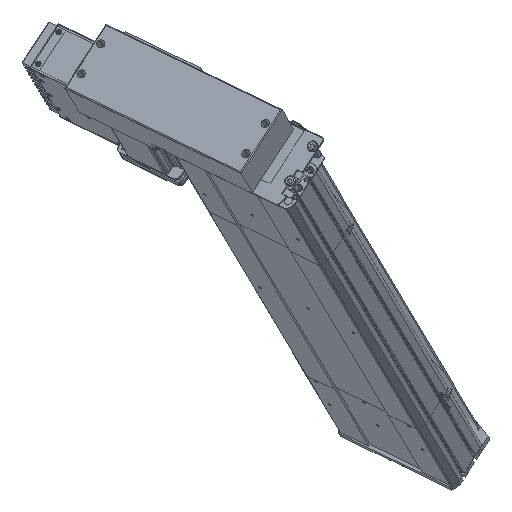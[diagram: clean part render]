
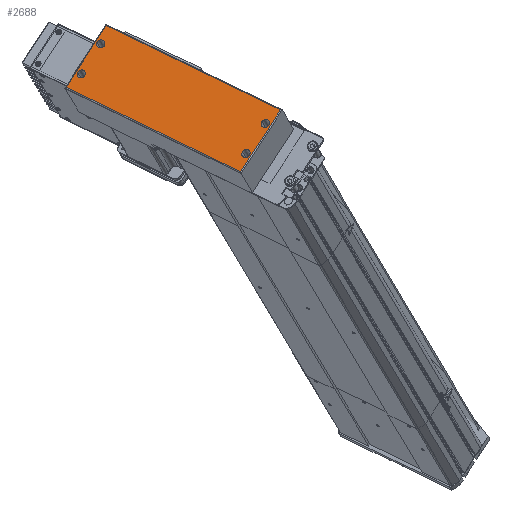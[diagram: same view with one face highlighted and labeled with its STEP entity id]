
A CAD part, top view. The second image highlights one B-rep face of the part: STEP entity #2688.
In plain terms, the highlighted planar face has unit normal (-0.256, 0.429, 0.866) as drawn and (0, 0, 1) by its records, which use the part's own axes.
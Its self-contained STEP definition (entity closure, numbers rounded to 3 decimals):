
#2187 = VERTEX_POINT ( 'NONE', #22397 ) ;
#2224 = VERTEX_POINT ( 'NONE', #22381 ) ;
#2235 = VERTEX_POINT ( 'NONE', #22449 ) ;
#2240 = EDGE_CURVE ( 'NONE', #2224, #2235, #22436, .T. ) ;
#2291 = VERTEX_POINT ( 'NONE', #22588 ) ;
#2293 = EDGE_CURVE ( 'NONE', #2187, #2291, #22581, .T. ) ;
#2318 = VERTEX_POINT ( 'NONE', #22617 ) ;
#2345 = VERTEX_POINT ( 'NONE', #22638 ) ;
#2347 = VERTEX_POINT ( 'NONE', #22670 ) ;
#2349 = EDGE_CURVE ( 'NONE', #2345, #2347, #22666, .T. ) ;
#2380 = VERTEX_POINT ( 'NONE', #22747 ) ;
#2382 = EDGE_CURVE ( 'NONE', #2318, #2380, #22741, .T. ) ;
#2614 = ORIENTED_EDGE ( 'NONE', *, *, #2737, .F. ) ;
#2619 = EDGE_LOOP ( 'NONE', ( #2622, #2690 ) ) ;
#2622 = ORIENTED_EDGE ( 'NONE', *, *, #2694, .F. ) ;
#2635 = ORIENTED_EDGE ( 'NONE', *, *, #2382, .F. ) ;
#2654 = ORIENTED_EDGE ( 'NONE', *, *, #2661, .T. ) ;
#2657 = VERTEX_POINT ( 'NONE', #23248 ) ;
#2659 = EDGE_CURVE ( 'NONE', #2380, #2318, #23225, .T. ) ;
#2661 = EDGE_CURVE ( 'NONE', #2657, #2672, #23281, .T. ) ;
#2663 = ORIENTED_EDGE ( 'NONE', *, *, #2722, .T. ) ;
#2667 = VERTEX_POINT ( 'NONE', #23264 ) ;
#2668 = EDGE_LOOP ( 'NONE', ( #2654, #2716, #2721, #2663 ) ) ;
#2672 = VERTEX_POINT ( 'NONE', #23222 ) ;
#2673 = EDGE_LOOP ( 'NONE', ( #2735, #2635 ) ) ;
#2679 = EDGE_LOOP ( 'NONE', ( #2732, #2736 ) ) ;
#2686 = VERTEX_POINT ( 'NONE', #23304 ) ;
#2688 = ADVANCED_FACE ( 'NONE', ( #23292, #23315, #23289, #23303, #23294 ), #23309, .T. ) ;
#2690 = ORIENTED_EDGE ( 'NONE', *, *, #2240, .F. ) ;
#2692 = EDGE_LOOP ( 'NONE', ( #2614, #2739 ) ) ;
#2694 = EDGE_CURVE ( 'NONE', #2235, #2224, #23334, .T. ) ;
#2709 = EDGE_CURVE ( 'NONE', #2672, #2686, #23333, .T. ) ;
#2716 = ORIENTED_EDGE ( 'NONE', *, *, #2709, .T. ) ;
#2717 = EDGE_CURVE ( 'NONE', #2686, #2667, #23385, .T. ) ;
#2721 = ORIENTED_EDGE ( 'NONE', *, *, #2717, .T. ) ;
#2722 = EDGE_CURVE ( 'NONE', #2667, #2657, #23373, .T. ) ;
#2729 = EDGE_CURVE ( 'NONE', #2291, #2187, #23367, .T. ) ;
#2732 = ORIENTED_EDGE ( 'NONE', *, *, #2729, .F. ) ;
#2735 = ORIENTED_EDGE ( 'NONE', *, *, #2659, .F. ) ;
#2736 = ORIENTED_EDGE ( 'NONE', *, *, #2293, .F. ) ;
#2737 = EDGE_CURVE ( 'NONE', #2347, #2345, #23413, .T. ) ;
#2739 = ORIENTED_EDGE ( 'NONE', *, *, #2349, .F. ) ;
#22381 = CARTESIAN_POINT ( 'NONE',  ( -161.75, 53., 44. ) ) ;
#22397 = CARTESIAN_POINT ( 'NONE',  ( -161.75, 19., 44. ) ) ;
#22436 = CIRCLE ( 'NONE', #22489, 4. ) ;
#22449 = CARTESIAN_POINT ( 'NONE',  ( -153.75, 53., 44. ) ) ;
#22484 = DIRECTION ( 'NONE',  ( 1., 0., 0. ) ) ;
#22485 = DIRECTION ( 'NONE',  ( 0., 0., 1. ) ) ;
#22486 = CARTESIAN_POINT ( 'NONE',  ( -157.75, 53., 44. ) ) ;
#22489 = AXIS2_PLACEMENT_3D ( 'NONE', #22486, #22485, #22484 ) ;
#22575 = DIRECTION ( 'NONE',  ( 1., 0., 0. ) ) ;
#22576 = DIRECTION ( 'NONE',  ( 0., 0., 1. ) ) ;
#22577 = CARTESIAN_POINT ( 'NONE',  ( -157.75, 19., 44. ) ) ;
#22578 = AXIS2_PLACEMENT_3D ( 'NONE', #22577, #22576, #22575 ) ;
#22581 = CIRCLE ( 'NONE', #22578, 4. ) ;
#22588 = CARTESIAN_POINT ( 'NONE',  ( -153.75, 19., 44. ) ) ;
#22617 = CARTESIAN_POINT ( 'NONE',  ( 25.25, 53., 44. ) ) ;
#22638 = CARTESIAN_POINT ( 'NONE',  ( 25.25, 19., 44. ) ) ;
#22662 = DIRECTION ( 'NONE',  ( 1., 0., 0. ) ) ;
#22663 = DIRECTION ( 'NONE',  ( 0., 0., 1. ) ) ;
#22664 = CARTESIAN_POINT ( 'NONE',  ( 29.25, 19., 44. ) ) ;
#22665 = AXIS2_PLACEMENT_3D ( 'NONE', #22664, #22663, #22662 ) ;
#22666 = CIRCLE ( 'NONE', #22665, 4. ) ;
#22670 = CARTESIAN_POINT ( 'NONE',  ( 33.25, 19., 44. ) ) ;
#22737 = DIRECTION ( 'NONE',  ( 1., 0., 0. ) ) ;
#22738 = DIRECTION ( 'NONE',  ( 0., 0., 1. ) ) ;
#22739 = CARTESIAN_POINT ( 'NONE',  ( 29.25, 53., 44. ) ) ;
#22740 = AXIS2_PLACEMENT_3D ( 'NONE', #22739, #22738, #22737 ) ;
#22741 = CIRCLE ( 'NONE', #22740, 4. ) ;
#22747 = CARTESIAN_POINT ( 'NONE',  ( 33.25, 53., 44. ) ) ;
#23220 = CARTESIAN_POINT ( 'NONE',  ( 29.25, 53., 44. ) ) ;
#23222 = CARTESIAN_POINT ( 'NONE',  ( 34.75, 1., 44. ) ) ;
#23225 = CIRCLE ( 'NONE', #23235, 4. ) ;
#23235 = AXIS2_PLACEMENT_3D ( 'NONE', #23220, #23280, #23279 ) ;
#23248 = CARTESIAN_POINT ( 'NONE',  ( -163.25, 1., 44. ) ) ;
#23255 = AXIS2_PLACEMENT_3D ( 'NONE', #23274, #23291, #23293 ) ;
#23264 = CARTESIAN_POINT ( 'NONE',  ( -163.25, 71., 44. ) ) ;
#23274 = CARTESIAN_POINT ( 'NONE',  ( -164.25, 0., 44. ) ) ;
#23275 = DIRECTION ( 'NONE',  ( 1., 0., 0. ) ) ;
#23276 = VECTOR ( 'NONE', #23275, 1000. ) ;
#23278 = CARTESIAN_POINT ( 'NONE',  ( 35.75, 1., 44. ) ) ;
#23279 = DIRECTION ( 'NONE',  ( 1., 0., 0. ) ) ;
#23280 = DIRECTION ( 'NONE',  ( 0., 0., 1. ) ) ;
#23281 = LINE ( 'NONE', #23278, #23276 ) ;
#23289 = FACE_BOUND ( 'NONE', #2692, .T. ) ;
#23291 = DIRECTION ( 'NONE',  ( 0., 0., 1. ) ) ;
#23292 = FACE_BOUND ( 'NONE', #2619, .T. ) ;
#23293 = DIRECTION ( 'NONE',  ( 1., 0., 0. ) ) ;
#23294 = FACE_OUTER_BOUND ( 'NONE', #2668, .T. ) ;
#23303 = FACE_BOUND ( 'NONE', #2673, .T. ) ;
#23304 = CARTESIAN_POINT ( 'NONE',  ( 34.75, 71., 44. ) ) ;
#23309 = PLANE ( 'NONE',  #23255 ) ;
#23315 = FACE_BOUND ( 'NONE', #2679, .T. ) ;
#23328 = DIRECTION ( 'NONE',  ( 1., 0., 0. ) ) ;
#23329 = DIRECTION ( 'NONE',  ( 0., 0., 1. ) ) ;
#23330 = CARTESIAN_POINT ( 'NONE',  ( -157.75, 53., 44. ) ) ;
#23331 = AXIS2_PLACEMENT_3D ( 'NONE', #23330, #23329, #23328 ) ;
#23333 = LINE ( 'NONE', #23354, #23353 ) ;
#23334 = CIRCLE ( 'NONE', #23331, 4. ) ;
#23352 = DIRECTION ( 'NONE',  ( 0., 1., 0. ) ) ;
#23353 = VECTOR ( 'NONE', #23352, 1000. ) ;
#23354 = CARTESIAN_POINT ( 'NONE',  ( 34.75, 72., 44. ) ) ;
#23367 = CIRCLE ( 'NONE', #23422, 4. ) ;
#23368 = DIRECTION ( 'NONE',  ( 0., -1., 0. ) ) ;
#23369 = VECTOR ( 'NONE', #23368, 1000. ) ;
#23372 = CARTESIAN_POINT ( 'NONE',  ( -163.25, 0., 44. ) ) ;
#23373 = LINE ( 'NONE', #23372, #23369 ) ;
#23374 = CARTESIAN_POINT ( 'NONE',  ( -157.75, 19., 44. ) ) ;
#23379 = DIRECTION ( 'NONE',  ( -1., 0., 0. ) ) ;
#23380 = VECTOR ( 'NONE', #23379, 1000. ) ;
#23381 = CARTESIAN_POINT ( 'NONE',  ( -164.25, 71., 44. ) ) ;
#23385 = LINE ( 'NONE', #23381, #23380 ) ;
#23405 = DIRECTION ( 'NONE',  ( 1., 0., 0. ) ) ;
#23406 = DIRECTION ( 'NONE',  ( 0., 0., 1. ) ) ;
#23407 = CARTESIAN_POINT ( 'NONE',  ( 29.25, 19., 44. ) ) ;
#23409 = AXIS2_PLACEMENT_3D ( 'NONE', #23407, #23406, #23405 ) ;
#23413 = CIRCLE ( 'NONE', #23409, 4. ) ;
#23420 = DIRECTION ( 'NONE',  ( 1., 0., 0. ) ) ;
#23421 = DIRECTION ( 'NONE',  ( 0., 0., 1. ) ) ;
#23422 = AXIS2_PLACEMENT_3D ( 'NONE', #23374, #23421, #23420 ) ;
